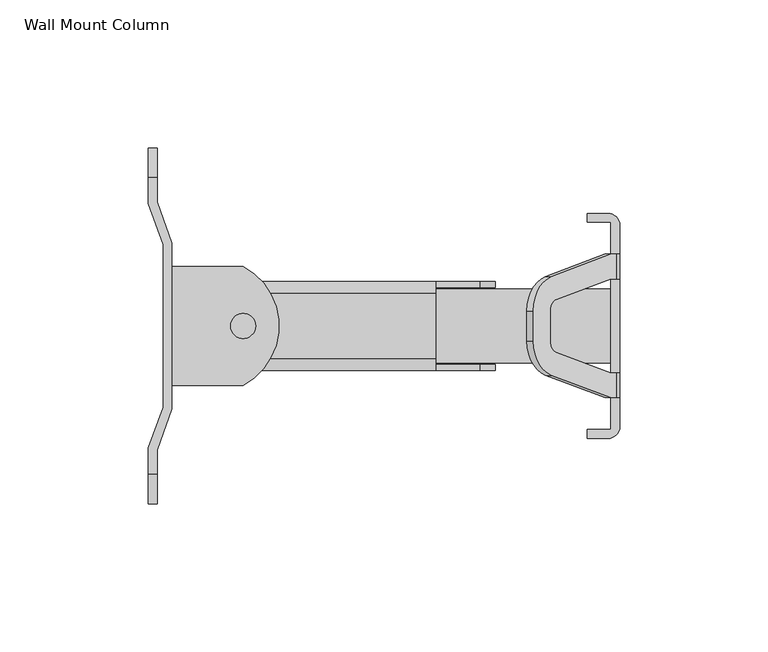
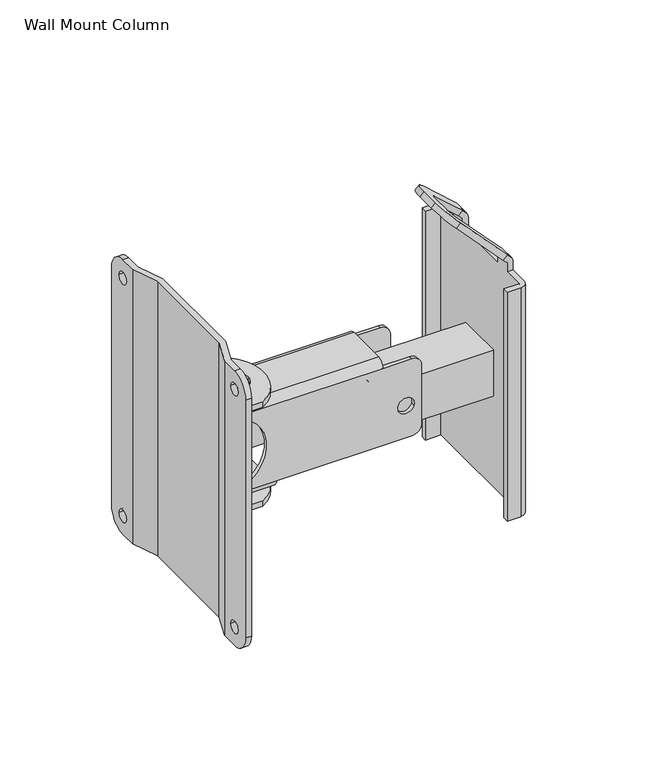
"""IFC4 building model written with IfcOpenShell, lengths in millimetres: proxy geometry, d&b xC-Series Wall Mount Column : Wall Mount Column."""

from ifc_helpers import new_model, si_unit, point, frame, frame_2d, origin, place, context, project, spatial, polyline, circle_curve, trimmed, segment, composite_curve, outline, extrude, source, transform, mapped, element, save
from ifc_brep_helpers import plane_surface, cylinder_surface, revolved_surface, advanced_brep


def wall_mount_column_50282c71(model_context):
    return source(origin(), model_context, "Body", "SolidModel", [
        advanced_brep(
        [(3.0, 13.0, -17.5), (8.0, 13.0, -12.5), (8.0, 13.0, 19.5), (3.0, 13.0, 24.5), (-12.0, 13.0, 24.5), (-12.0, 13.0, 22.5), (-85.755002, 13.0, 22.5), (-92.0, 13.0, -16.5), (-92.0, 13.0, -19.5), (-67.0, 13.0, -19.5), (-67.0, 13.0, -17.5), (4.0912703, 13.0, -1.0962526), (-4.0912703, 13.0, 1.0962526), (-92.0, 15.0, -17.5), (-92.0, 15.0, -16.5), (-92.0, 15.0, 23.5), (-92.0, 15.0, 24.5), (-12.0, 15.0, 24.5), (3.0, 15.0, 24.5), (8.0, 15.0, 19.5), (8.0, 15.0, -12.5), (3.0, 15.0, -17.5), (-67.0, 15.0, -17.5), (4.0912703, 15.0, -1.0962526), (-4.0912703, 15.0, 1.0962526), (-92.0, 13.0, 23.5), (-92.0, -13.0, -16.5), (-85.755002, -13.0, 22.5), (-12.0, -13.0, 22.5), (-12.0, -13.0, 24.5), (3.0, -13.0, 24.5), (8.0, -13.0, 19.5), (8.0, -13.0, -12.5), (3.0, -13.0, -17.5), (-67.0, -13.0, -17.5), (-67.0, -13.0, -19.5), (-92.0, -13.0, -19.5), (4.0912703, -13.0, -1.0962526), (-4.0912703, -13.0, 1.0962526), (3.0, -15.0, -17.5), (8.0, -15.0, -12.5), (8.0, -15.0, 19.5), (3.0, -15.0, 24.5), (-12.0, -15.0, 24.5), (-92.0, -15.0, 24.5), (-92.0, -15.0, 23.5), (-92.0, -15.0, -16.5), (-92.0, -15.0, -17.5), (-67.0, -15.0, -17.5), (4.0912703, -15.0, -1.0962526), (-4.0912703, -15.0, 1.0962526), (-92.0, -13.0, 23.5), (-92.0, 11.0, -21.5), (-92.0, -11.0, -21.5), (-92.0, 11.0, 28.5), (-92.0, 13.0, 22.5), (-92.0, -13.0, 22.5), (-92.0, -11.0, 28.5), (-12.0, 11.0, 28.5), (-12.0, -11.0, 28.5), (-67.0, -11.0, -21.5), (-67.0, 11.0, -21.5)],
        [
            (0, 1, circle_curve(frame((3.0, 13.0, -12.5), z_axis=(0.0, -1.0, 0.0), x_axis=(-0.9659258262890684, 0.0, 0.25881904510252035)), 5.0)),
            (1, 2),
            (2, 3, circle_curve(frame((3.0, 13.0, 19.5), z_axis=(0.0, -1.0, 0.0), x_axis=(-0.9659258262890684, 0.0, 0.25881904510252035)), 5.0)),
            (3, 4),
            (4, 5),
            (5, 6),
            (6, 7, circle_curve(frame((-92.0, 13.0, 3.5), z_axis=(0.0, 1.0, 0.0), x_axis=(-0.9659258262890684, 0.0, 0.25881904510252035)), 20.0)),
            (7, 8),
            (8, 9),
            (9, 10),
            (10, 0),
            (11, 12, circle_curve(frame((0.0, 13.0, 0.0), z_axis=(0.0, 1.0, 0.0), x_axis=(-0.9659258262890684, 0.0, 0.25881904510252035)), 4.2355947)),
            (12, 11, circle_curve(frame((0.0, 13.0, 0.0), z_axis=(0.0, 1.0, 0.0), x_axis=(-0.9659258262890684, 0.0, 0.25881904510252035)), 4.2355947)),
            (13, 14),
            (14, 15, circle_curve(frame((-92.0, 15.0, 3.5), z_axis=(0.0, -1.0, 0.0), x_axis=(-0.9659258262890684, 0.0, 0.25881904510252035)), 20.0)),
            (15, 16),
            (16, 17),
            (17, 18),
            (18, 19, circle_curve(frame((3.0, 15.0, 19.5), z_axis=(0.0, 1.0, 0.0), x_axis=(-0.9659258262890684, 0.0, 0.25881904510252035)), 5.0)),
            (19, 20),
            (20, 21, circle_curve(frame((3.0, 15.0, -12.5), z_axis=(0.0, 1.0, 0.0), x_axis=(-0.9659258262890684, 0.0, 0.25881904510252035)), 5.0)),
            (21, 22),
            (22, 13),
            (23, 24, circle_curve(frame((0.0, 15.0, 0.0), z_axis=(0.0, -1.0, 0.0), x_axis=(-0.9659258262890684, 0.0, 0.25881904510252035)), 4.2355947)),
            (24, 23, circle_curve(frame((0.0, 15.0, 0.0), z_axis=(0.0, -1.0, 0.0), x_axis=(-0.9659258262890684, 0.0, 0.25881904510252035)), 4.2355947)),
            (21, 0),
            (10, 22),
            (20, 1),
            (19, 2),
            (18, 3),
            (17, 4),
            (14, 7),
            (6, 25, circle_curve(frame((-92.0, 13.0, 3.5), z_axis=(0.0, -1.0, 0.0), x_axis=(-0.9659258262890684, 0.0, 0.25881904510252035)), 20.0)),
            (25, 15),
            (26, 27, circle_curve(frame((-92.0, -13.0, 3.5), z_axis=(0.0, -1.0, 0.0), x_axis=(-0.9659258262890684, 0.0, 0.25881904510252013)), 20.0)),
            (27, 28),
            (28, 29),
            (29, 30),
            (30, 31, circle_curve(frame((3.0, -13.0, 19.5), z_axis=(0.0, 1.0, 0.0), x_axis=(-0.9659258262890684, 0.0, 0.25881904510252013)), 5.0)),
            (31, 32),
            (32, 33, circle_curve(frame((3.0, -13.0, -12.5), z_axis=(0.0, 1.0, 0.0), x_axis=(-0.9659258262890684, 0.0, 0.25881904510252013)), 5.0)),
            (33, 34),
            (34, 35),
            (35, 36),
            (36, 26),
            (37, 38, circle_curve(frame((0.0, -13.0, 0.0), z_axis=(0.0, -1.0, 0.0), x_axis=(-0.9659258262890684, 0.0, 0.25881904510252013)), 4.2355947)),
            (38, 37, circle_curve(frame((0.0, -13.0, 0.0), z_axis=(0.0, -1.0, 0.0), x_axis=(-0.9659258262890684, 0.0, 0.25881904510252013)), 4.2355947)),
            (39, 40, circle_curve(frame((3.0, -15.0, -12.5), z_axis=(0.0, -1.0, 0.0), x_axis=(-0.9659258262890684, 0.0, 0.25881904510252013)), 5.0)),
            (40, 41),
            (41, 42, circle_curve(frame((3.0, -15.0, 19.5), z_axis=(0.0, -1.0, 0.0), x_axis=(-0.9659258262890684, 0.0, 0.25881904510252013)), 5.0)),
            (42, 43),
            (43, 44),
            (44, 45),
            (45, 46, circle_curve(frame((-92.0, -15.0, 3.5), z_axis=(0.0, 1.0, 0.0), x_axis=(-0.9659258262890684, 0.0, 0.25881904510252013)), 20.0)),
            (46, 47),
            (47, 48),
            (48, 39),
            (49, 50, circle_curve(frame((0.0, -15.0, 0.0), z_axis=(0.0, 1.0, 0.0), x_axis=(-0.9659258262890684, 0.0, 0.25881904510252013)), 4.2355947)),
            (50, 49, circle_curve(frame((0.0, -15.0, 0.0), z_axis=(0.0, 1.0, 0.0), x_axis=(-0.9659258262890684, 0.0, 0.25881904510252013)), 4.2355947)),
            (33, 39),
            (48, 34),
            (32, 40),
            (31, 41),
            (30, 42),
            (29, 43),
            (45, 51),
            (51, 27, circle_curve(frame((-92.0, -13.0, 3.5), z_axis=(0.0, 1.0, 0.0), x_axis=(-0.9659258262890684, 0.0, 0.25881904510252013)), 20.0)),
            (26, 46),
            (36, 8),
            (13, 52, circle_curve(frame((-92.0, 11.0, -17.5), z_axis=(-1.0, 0.0, 0.0), x_axis=(0.0, -1.0, 0.0)), 4.0)),
            (52, 53),
            (53, 47, circle_curve(frame((-92.0, -11.0, -17.5), z_axis=(-1.0, 0.0, 0.0), x_axis=(0.0, -1.0, 0.0)), 4.0)),
            (11, 23),
            (24, 12),
            (37, 49),
            (50, 38),
            (54, 16, circle_curve(frame((-92.0, 11.0, 24.5), z_axis=(-1.0, 0.0, 0.0), x_axis=(0.0, -1.0, 0.0)), 4.0)),
            (25, 55),
            (55, 56),
            (56, 51),
            (44, 57, circle_curve(frame((-92.0, -11.0, 24.5), z_axis=(-1.0, 0.0, 0.0), x_axis=(0.0, -1.0, 0.0)), 4.0)),
            (57, 54),
            (58, 59),
            (59, 43, circle_curve(frame((-12.0, -11.0, 24.5), z_axis=(1.0, 0.0, 0.0), x_axis=(0.0, -1.0, 0.0)), 4.0)),
            (28, 5),
            (17, 58, circle_curve(frame((-12.0, 11.0, 24.5), z_axis=(1.0, 0.0, 0.0), x_axis=(0.0, -1.0, 0.0)), 4.0)),
            (57, 59),
            (58, 54),
            (56, 27),
            (55, 6),
            (48, 60, circle_curve(frame((-67.0, -11.0, -17.5), z_axis=(1.0, 0.0, 0.0), x_axis=(0.0, -1.0, 0.0)), 4.0)),
            (60, 61),
            (61, 22, circle_curve(frame((-67.0, 11.0, -17.5), z_axis=(1.0, 0.0, 0.0), x_axis=(0.0, -1.0, 0.0)), 4.0)),
            (9, 35),
            (53, 60),
            (52, 61),
        ],
        [
            plane_surface(frame((3.0, 13.0, -17.5), z_axis=(0.0, -1.0, 0.0), x_axis=(1.0, 0.0, 0.0))),
            plane_surface(frame((3.0, 15.0, -17.5), z_axis=(0.0, 1.0, 0.0), x_axis=(-1.0, 0.0, 0.0))),
            plane_surface(frame((-92.0, 13.0, -17.5), z_axis=(0.0, 0.0, -1.0), x_axis=(0.0, 1.0, 0.0))),
            cylinder_surface(frame((3.0, 15.0, -12.5), z_axis=(0.0, -1.0, 0.0), x_axis=(-0.9659258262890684, 0.0, 0.25881904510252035)), 5.0),
            plane_surface(frame((8.0, 13.0, -12.5), z_axis=(1.0, 0.0, 0.0), x_axis=(0.0, 1.0, 0.0))),
            cylinder_surface(frame((3.0, 15.0, 19.5), z_axis=(0.0, -1.0, 0.0), x_axis=(-0.9659258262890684, 0.0, 0.25881904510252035)), 5.0),
            plane_surface(frame((3.0, 13.0, 24.5), z_axis=(0.0, 0.0, 1.0), x_axis=(0.0, 1.0, 0.0))),
            revolved_surface(polyline([(-111.31851652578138, 15.0, 8.676380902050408), (-111.31851652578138, 13.0, 8.676380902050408)]), (-92.0, 15.0, 3.5), (0.0, 1.0, 0.0)),
            plane_surface(frame((-92.0, -13.0, -17.5), z_axis=(0.0, 1.0, 0.0), x_axis=(0.0, 0.0, 1.0))),
            plane_surface(frame((-92.0, -15.0, -17.5), z_axis=(0.0, -1.0, 0.0), x_axis=(0.0, 0.0, -1.0))),
            plane_surface(frame((3.0, -13.0, -17.5), z_axis=(0.0, 0.0, -1.0), x_axis=(0.0, -1.0, 0.0))),
            cylinder_surface(frame((3.0, -15.0, -12.5), z_axis=(0.0, 1.0, 0.0), x_axis=(-0.9659258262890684, 0.0, 0.25881904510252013)), 5.0),
            plane_surface(frame((8.0, -13.0, 19.5), z_axis=(1.0, 0.0, 0.0), x_axis=(0.0, -1.0, 0.0))),
            cylinder_surface(frame((3.0, -15.0, 19.5), z_axis=(0.0, 1.0, 0.0), x_axis=(-0.9659258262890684, 0.0, 0.25881904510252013)), 5.0),
            plane_surface(frame((-92.0, -13.0, 24.5), z_axis=(0.0, 0.0, 1.0), x_axis=(0.0, -1.0, 0.0))),
            revolved_surface(polyline([(-111.31851652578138, -15.0, 8.676380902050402), (-111.31851652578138, -13.0, 8.676380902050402)]), (-92.0, -15.0, 3.5), (0.0, -1.0, 0.0)),
            plane_surface(frame((-92.0, -13.0, -17.5), z_axis=(-1.0, 0.0, 0.0), x_axis=(0.0, -1.0, 0.0))),
            revolved_surface(polyline([(-4.0912703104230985, 15.0, 1.096252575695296), (-4.0912703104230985, 13.0, 1.096252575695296)]), (0.0, 0.0, 0.0), (0.0, 1.0, 0.0)),
            revolved_surface(polyline([(-4.0912703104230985, -15.0, 1.0962525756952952), (-4.0912703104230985, -13.0, 1.0962525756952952)]), (0.0, 0.0, 0.0), (0.0, -1.0, 0.0)),
            plane_surface(frame((-92.0, -11.0, 28.5), z_axis=(-1.0, 0.0, 0.0), x_axis=(0.0, 1.0, 0.0))),
            plane_surface(frame((-12.0, -11.0, 28.5), z_axis=(1.0, 0.0, 0.0), x_axis=(0.0, -1.0, 0.0))),
            plane_surface(frame((-12.0, 11.0, 28.5), z_axis=(0.0, 0.0, 1.0), x_axis=(-1.0, 0.0, 0.0))),
            cylinder_surface(frame((-92.0, -11.0, 24.5), z_axis=(1.0, 0.0, 0.0), x_axis=(0.0, -1.0, 0.0)), 4.0),
            plane_surface(frame((-12.0, -13.0, 24.5), z_axis=(0.0, -1.0, 0.0), x_axis=(-1.0, 0.0, 0.0))),
            plane_surface(frame((-12.0, -13.0, 22.5), z_axis=(0.0, 0.0, -1.0), x_axis=(-1.0, 0.0, 0.0))),
            plane_surface(frame((-12.0, 13.0, 22.5), z_axis=(0.0, 1.0, 0.0), x_axis=(-1.0, 0.0, 0.0))),
            cylinder_surface(frame((-92.0, 11.0, 24.5), z_axis=(1.0, 0.0, 0.0), x_axis=(0.0, -1.0, 0.0)), 4.0),
            plane_surface(frame((-67.0, -13.0, -17.5), z_axis=(1.0, 0.0, 0.0), x_axis=(0.0, 0.0, 1.0))),
            cylinder_surface(frame((-92.0, -11.0, -17.5), z_axis=(1.0, 0.0, 0.0), x_axis=(0.0, -1.0, 0.0)), 4.0),
            plane_surface(frame((-67.0, -11.0, -21.5), z_axis=(0.0, 0.0, -1.0), x_axis=(-1.0, 0.0, 0.0))),
            cylinder_surface(frame((-92.0, 11.0, -17.5), z_axis=(1.0, 0.0, 0.0), x_axis=(0.0, -1.0, 0.0)), 4.0),
            plane_surface(frame((-67.0, 13.0, -19.5), z_axis=(0.0, 0.0, 1.0), x_axis=(-1.0, 0.0, 0.0))),
        ],
        [
            (0, [[1, 2, 3, 4, 5, 6, 7, 8, 9, 10, 11], [12, 13]]),
            (1, [[14, 15, 16, 17, 18, 19, 20, 21, 22, 23], [24, 25]]),
            (2, [[26, -11, 27, -22]]),
            (3, [[-1, -26, -21, 28]]),
            (4, [[-2, -28, -20, 29]]),
            (5, [[-3, -29, -19, 30]]),
            (6, [[-30, -18, 31, -4]]),
            (7, [[-15, 32, -7, 33, 34]]),
            (8, [[35, 36, 37, 38, 39, 40, 41, 42, 43, 44, 45], [46, 47]]),
            (9, [[48, 49, 50, 51, 52, 53, 54, 55, 56, 57], [58, 59]]),
            (10, [[60, -57, 61, -42]]),
            (11, [[-41, 62, -48, -60]]),
            (12, [[-40, 63, -49, -62]]),
            (13, [[-39, 64, -50, -63]]),
            (14, [[-64, -38, 65, -51]]),
            (15, [[-54, 66, 67, -35, 68]]),
            (16, [[-45, 69, -8, -32, -14, 70, 71, 72, -55, -68]]),
            (17, [[-12, 73, -25, 74]]),
            (17, [[-13, -74, -24, -73]]),
            (18, [[-46, 75, -59, 76]]),
            (18, [[-47, -76, -58, -75]]),
            (19, [[77, -16, -34, 78, 79, 80, -66, -53, 81, 82]]),
            (20, [[83, 84, -65, -37, 85, -5, -31, 86]]),
            (21, [[-82, 87, -83, 88]]),
            (22, [[-81, -52, -84, -87]]),
            (23, [[-80, 89, -67]]),
            (24, [[-79, 90, -6, -85, -36, -89]]),
            (25, [[-78, -33, -90]]),
            (26, [[-77, -88, -86, -17]]),
            (27, [[-43, -61, 91, 92, 93, -27, -10, 94]]),
            (28, [[-91, -56, -72, 95]]),
            (29, [[-92, -95, -71, 96]]),
            (30, [[-93, -96, -70, -23]]),
            (31, [[-94, -9, -69, -44]]),
        ],
    ),
        extrude(outline(composite_curve([segment(polyline([(-101.0, 20.0), (-77.0, 20.0)]), True, "CONTINUOUS"), segment(trimmed(circle_curve(frame_2d((-87.4956641, 0.0)), 22.5866989), [point((-77.0, 20.0))], [point((-77.0, -20.0))], False, "CARTESIAN"), True, "CONTINUOUS"), segment(polyline([(-77.0, -20.0), (-101.0, -20.0), (-101.0, 20.0)]), True, "CONTINUOUS")], self_intersect=False), holes=[composite_curve([segment(trimmed(circle_curve(frame_2d((-77.0, 0.0)), 4.2033528), [point((-72.7966472, 0.0))], [point((-81.2033528, 0.0))], True, "CARTESIAN"), True, "CONTINUOUS"), segment(trimmed(circle_curve(frame_2d((-77.0, 0.0)), 4.2033528), [point((-81.2033528, 0.0))], [point((-72.7966472, 0.0))], True, "CARTESIAN"), True, "CONTINUOUS")], self_intersect=False)]), frame((0.0, 0.0, -25.0), z_axis=(0.0, 0.0, 1.0), x_axis=(1.0, 0.0, 0.0)), (0.0, 0.0, 1.0), 3.0),
        advanced_brep(
        [(-104.0, -27.5, 78.5), (-109.0, -41.2373871, 78.5), (-109.0, -50.0, 78.5), (-106.0, -50.0, 78.5), (-106.0, -41.766368, 78.5), (-101.0, -28.0289809, 78.5), (-101.0, 28.0289809, 78.5), (-106.0, 41.766368, 78.5), (-106.0, 50.0, 78.5), (-109.0, 50.0, 78.5), (-109.0, 41.2373871, 78.5), (-104.0, 27.5, 78.5), (-104.0, -27.5, -71.5), (-104.0, 27.5, -71.5), (-109.0, 41.2373871, -71.5), (-109.0, 50.0, -71.5), (-106.0, 50.0, -71.5), (-106.0, 41.766368, -71.5), (-101.0, 28.0289809, -71.5), (-101.0, -28.0289809, -71.5), (-106.0, -41.766368, -71.5), (-106.0, -50.0, -71.5), (-109.0, -50.0, -71.5), (-109.0, -41.2373871, -71.5), (-109.0, -60.0, -61.5), (-109.0, -60.0, 68.5), (-109.0, -46.75, 68.5), (-109.0, -53.25, 68.5), (-109.0, -46.75, -61.5), (-109.0, -53.25, -61.5), (-106.0, -60.0, -61.5), (-106.0, -60.0, 68.5), (-106.0, -53.25, 68.5), (-106.0, -46.75, 68.5), (-106.0, -53.25, -61.5), (-106.0, -46.75, -61.5), (-106.0, 60.0, -61.5), (-106.0, 60.0, 68.5), (-106.0, 46.75, 68.5), (-106.0, 53.25, 68.5), (-106.0, 46.75, -61.5), (-106.0, 53.25, -61.5), (-109.0, 60.0, -61.5), (-109.0, 60.0, 68.5), (-109.0, 53.25, 68.5), (-109.0, 46.75, 68.5), (-109.0, 53.25, -61.5), (-109.0, 46.75, -61.5)],
        [
            (0, 1),
            (1, 2),
            (2, 3),
            (3, 4),
            (4, 5),
            (5, 6),
            (6, 7),
            (7, 8),
            (8, 9),
            (9, 10),
            (10, 11),
            (11, 0),
            (12, 13),
            (13, 14),
            (14, 15),
            (15, 16),
            (16, 17),
            (17, 18),
            (18, 19),
            (19, 20),
            (20, 21),
            (21, 22),
            (22, 23),
            (23, 12),
            (0, 12),
            (23, 1),
            (22, 24, circle_curve(frame((-109.0, -50.0, -61.5), z_axis=(-1.0, 0.0, 0.0), x_axis=(0.0, 1.0, 0.0)), 10.0)),
            (24, 25),
            (25, 2, circle_curve(frame((-109.0, -50.0, 68.5), z_axis=(-1.0, 0.0, 0.0), x_axis=(0.0, 1.0, 0.0)), 10.0)),
            (26, 27, circle_curve(frame((-109.0, -50.0, 68.5), z_axis=(1.0, 0.0, 0.0), x_axis=(0.0, 1.0, 0.0)), 3.25)),
            (27, 26, circle_curve(frame((-109.0, -50.0, 68.5), z_axis=(1.0, 0.0, 0.0), x_axis=(0.0, 1.0, 0.0)), 3.25)),
            (28, 29, circle_curve(frame((-109.0, -50.0, -61.5), z_axis=(1.0, 0.0, 0.0), x_axis=(0.0, 1.0, 0.0)), 3.25)),
            (29, 28, circle_curve(frame((-109.0, -50.0, -61.5), z_axis=(1.0, 0.0, 0.0), x_axis=(0.0, 1.0, 0.0)), 3.25)),
            (24, 30),
            (30, 31),
            (31, 25),
            (20, 4),
            (3, 31, circle_curve(frame((-106.0, -50.0, 68.5), z_axis=(1.0, 0.0, 0.0), x_axis=(0.0, 1.0, 0.0)), 10.0)),
            (30, 21, circle_curve(frame((-106.0, -50.0, -61.5), z_axis=(1.0, 0.0, 0.0), x_axis=(0.0, 1.0, 0.0)), 10.0)),
            (32, 33, circle_curve(frame((-106.0, -50.0, 68.5), z_axis=(-1.0, 0.0, 0.0), x_axis=(0.0, 1.0, 0.0)), 3.25)),
            (33, 32, circle_curve(frame((-106.0, -50.0, 68.5), z_axis=(-1.0, 0.0, 0.0), x_axis=(0.0, 1.0, 0.0)), 3.25)),
            (34, 35, circle_curve(frame((-106.0, -50.0, -61.5), z_axis=(-1.0, 0.0, 0.0), x_axis=(0.0, 1.0, 0.0)), 3.25)),
            (35, 34, circle_curve(frame((-106.0, -50.0, -61.5), z_axis=(-1.0, 0.0, 0.0), x_axis=(0.0, 1.0, 0.0)), 3.25)),
            (19, 5),
            (18, 6),
            (17, 7),
            (16, 36, circle_curve(frame((-106.0, 50.0, -61.5), z_axis=(1.0, 0.0, 0.0), x_axis=(0.0, 1.0, 0.0)), 10.0)),
            (36, 37),
            (37, 8, circle_curve(frame((-106.0, 50.0, 68.5), z_axis=(1.0, 0.0, 0.0), x_axis=(0.0, 1.0, 0.0)), 10.0)),
            (38, 39, circle_curve(frame((-106.0, 50.0, 68.5), z_axis=(-1.0, 0.0, 0.0), x_axis=(0.0, 1.0, 0.0)), 3.25)),
            (39, 38, circle_curve(frame((-106.0, 50.0, 68.5), z_axis=(-1.0, 0.0, 0.0), x_axis=(0.0, 1.0, 0.0)), 3.25)),
            (40, 41, circle_curve(frame((-106.0, 50.0, -61.5), z_axis=(-1.0, 0.0, 0.0), x_axis=(0.0, 1.0, 0.0)), 3.25)),
            (41, 40, circle_curve(frame((-106.0, 50.0, -61.5), z_axis=(-1.0, 0.0, 0.0), x_axis=(0.0, 1.0, 0.0)), 3.25)),
            (36, 42),
            (42, 43),
            (43, 37),
            (14, 10),
            (9, 43, circle_curve(frame((-109.0, 50.0, 68.5), z_axis=(-1.0, 0.0, 0.0), x_axis=(0.0, 1.0, 0.0)), 10.0)),
            (42, 15, circle_curve(frame((-109.0, 50.0, -61.5), z_axis=(-1.0, 0.0, 0.0), x_axis=(0.0, 1.0, 0.0)), 10.0)),
            (44, 45, circle_curve(frame((-109.0, 50.0, 68.5), z_axis=(1.0, 0.0, 0.0), x_axis=(0.0, 1.0, 0.0)), 3.25)),
            (45, 44, circle_curve(frame((-109.0, 50.0, 68.5), z_axis=(1.0, 0.0, 0.0), x_axis=(0.0, 1.0, 0.0)), 3.25)),
            (46, 47, circle_curve(frame((-109.0, 50.0, -61.5), z_axis=(1.0, 0.0, 0.0), x_axis=(0.0, 1.0, 0.0)), 3.25)),
            (47, 46, circle_curve(frame((-109.0, 50.0, -61.5), z_axis=(1.0, 0.0, 0.0), x_axis=(0.0, 1.0, 0.0)), 3.25)),
            (13, 11),
            (32, 27),
            (26, 33),
            (38, 45),
            (44, 39),
            (34, 29),
            (28, 35),
            (40, 47),
            (46, 41),
        ],
        [
            plane_surface(frame((-104.0, -27.5, 78.5), z_axis=(0.0, 0.0, 1.0000000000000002), x_axis=(-0.3420201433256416, -0.9396926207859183, 0.0))),
            plane_surface(frame((-104.0, -27.5, -71.5), z_axis=(0.0, 0.0, -1.0000000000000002), x_axis=(0.3420201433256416, 0.9396926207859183, 0.0))),
            plane_surface(frame((-104.0, -27.5, 78.5), z_axis=(-0.9396926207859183, 0.3420201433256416, 0.0), x_axis=(0.0, 0.0, -1.0))),
            plane_surface(frame((-109.0, -41.2373871, 78.5), z_axis=(-1.0, 0.0, 0.0), x_axis=(0.0, 0.0, -1.0))),
            plane_surface(frame((-109.0, -60.0, 78.5), z_axis=(0.0, -1.0, 0.0), x_axis=(0.0, 0.0, -1.0))),
            plane_surface(frame((-106.0, -60.0, 78.5), z_axis=(1.0, 0.0, 0.0), x_axis=(0.0, 0.0, -1.0))),
            plane_surface(frame((-106.0, -41.766368, 78.5), z_axis=(0.9396926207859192, -0.34202014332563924, 0.0), x_axis=(0.0, 0.0, -1.0))),
            plane_surface(frame((-101.0, -28.0289809, 78.5), z_axis=(1.0, 0.0, 0.0), x_axis=(0.0, 0.0, -1.0))),
            plane_surface(frame((-101.0, 28.0289809, 78.5), z_axis=(0.9396926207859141, 0.3420201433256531, 0.0), x_axis=(0.0, 0.0, -1.0))),
            plane_surface(frame((-106.0, 41.766368, 78.5), z_axis=(1.0, 0.0, 0.0), x_axis=(0.0, 0.0, -1.0))),
            plane_surface(frame((-106.0, 60.0, 78.5), z_axis=(0.0, 1.0, 0.0), x_axis=(0.0, 0.0, -1.0))),
            plane_surface(frame((-109.0, 60.0, 78.5), z_axis=(-1.0, 0.0, 0.0), x_axis=(0.0, 0.0, -1.0))),
            plane_surface(frame((-109.0, 41.2373871, 78.5), z_axis=(-0.939692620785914, -0.3420201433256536, 0.0), x_axis=(0.0, 0.0, -1.0))),
            plane_surface(frame((-104.0, 27.5, 78.5), z_axis=(-1.0, 0.0, 0.0), x_axis=(0.0, 0.0, -1.0))),
            cylinder_surface(frame((-91.0, -50.0, 68.5), z_axis=(1.0, 0.0, 0.0), x_axis=(0.0, 1.0, 0.0)), 10.0),
            cylinder_surface(frame((-106.0, 50.0, 68.5), z_axis=(1.0, 0.0, 0.0), x_axis=(0.0, 1.0, 0.0)), 10.0),
            cylinder_surface(frame((-106.0, -50.0, -61.5), z_axis=(1.0, 0.0, 0.0), x_axis=(0.0, 1.0, 0.0)), 10.0),
            cylinder_surface(frame((-106.0, 50.0, -61.5), z_axis=(1.0, 0.0, 0.0), x_axis=(0.0, 1.0, 0.0)), 10.0),
            revolved_surface(polyline([(-109.0, -46.75, 68.5), (-106.0, -46.75, 68.5)]), (-106.0, -50.0, 68.5), (-1.0, 0.0, 0.0)),
            revolved_surface(polyline([(-109.0, 53.25, 68.5), (-106.0, 53.25, 68.5)]), (-106.0, 50.0, 68.5), (-1.0, 0.0, 0.0)),
            revolved_surface(polyline([(-109.0, -46.75, -61.5), (-106.0, -46.75, -61.5)]), (-106.0, -50.0, -61.5), (-1.0, 0.0, 0.0)),
            revolved_surface(polyline([(-109.0, 53.25, -61.5), (-106.0, 53.25, -61.5)]), (-106.0, 50.0, -61.5), (-1.0, 0.0, 0.0)),
        ],
        [
            (0, [[1, 2, 3, 4, 5, 6, 7, 8, 9, 10, 11, 12]]),
            (1, [[13, 14, 15, 16, 17, 18, 19, 20, 21, 22, 23, 24]]),
            (2, [[-1, 25, -24, 26]]),
            (3, [[-26, -23, 27, 28, 29, -2], [30, 31], [32, 33]]),
            (4, [[-28, 34, 35, 36]]),
            (5, [[37, -4, 38, -35, 39, -21], [40, 41], [42, 43]]),
            (6, [[-5, -37, -20, 44]]),
            (7, [[-6, -44, -19, 45]]),
            (8, [[-7, -45, -18, 46]]),
            (9, [[-46, -17, 47, 48, 49, -8], [50, 51], [52, 53]]),
            (10, [[-48, 54, 55, 56]]),
            (11, [[57, -10, 58, -55, 59, -15], [60, 61], [62, 63]]),
            (12, [[-11, -57, -14, 64]]),
            (13, [[-12, -64, -13, -25]]),
            (14, [[-3, -29, -36, -38]]),
            (15, [[-9, -49, -56, -58]]),
            (16, [[-22, -39, -34, -27]]),
            (17, [[-16, -59, -54, -47]]),
            (18, [[65, -30, 66, -40]]),
            (18, [[-65, -41, -66, -31]]),
            (19, [[67, -60, 68, -50]]),
            (19, [[-67, -51, -68, -61]]),
            (20, [[69, -32, 70, -42]]),
            (20, [[-69, -43, -70, -33]]),
            (21, [[71, -62, 72, -52]]),
            (21, [[-71, -53, -72, -63]]),
        ],
    ),
        extrude(outline(composite_curve([segment(polyline([(-101.0, 20.0), (-77.0, 20.0)]), True, "CONTINUOUS"), segment(trimmed(circle_curve(frame_2d((-87.4956641, 0.0)), 22.5866989), [point((-77.0, 20.0))], [point((-77.0, -20.0))], False, "CARTESIAN"), True, "CONTINUOUS"), segment(polyline([(-77.0, -20.0), (-101.0, -20.0), (-101.0, 20.0)]), True, "CONTINUOUS")], self_intersect=False), holes=[composite_curve([segment(trimmed(circle_curve(frame_2d((-77.0, 0.0)), 4.2033528), [point((-72.7966472, 0.0))], [point((-81.2033528, 0.0))], True, "CARTESIAN"), True, "CONTINUOUS"), segment(trimmed(circle_curve(frame_2d((-77.0, 0.0)), 4.2033528), [point((-81.2033528, 0.0))], [point((-72.7966472, 0.0))], True, "CARTESIAN"), True, "CONTINUOUS")], self_intersect=False)]), frame((0.0, 0.0, 29.0), z_axis=(0.0, 0.0, 1.0), x_axis=(1.0, 0.0, 0.0)), (0.0, 0.0, 1.0), 3.0),
        advanced_brep(
        [(44.8686292, -24.1923439, 69.3813708), (25.0048577, -16.6652184, 89.2451423), (18.7157288, -5.0741084, 95.5342712), (18.7157288, 5.0741084, 95.5342712), (25.0048577, 16.6652184, 89.2451423), (44.8686292, 24.1923439, 69.3813708), (47.0, 24.1923439, 67.25), (47.0, 15.9101345, 67.25), (44.8686292, 15.9101345, 69.3813708), (26.4689593, 8.9378118, 87.7810407), (24.372583, 5.0741084, 89.877417), (24.372583, -5.0741084, 89.877417), (26.4689593, -8.9378118, 87.7810407), (44.8686292, -15.9101345, 69.3813708), (47.0, -15.9101345, 67.25), (47.0, -24.1923439, 67.25), (46.9899495, -15.9101345, 71.5026912), (28.5902797, -8.9378118, 89.902361), (26.4939033, -5.0741084, 91.9987373), (26.4939033, 5.0741084, 91.9987373), (28.5902797, 8.9378118, 89.902361), (46.9899495, 15.9101345, 71.5026912), (48.8284271, 15.9101345, 69.6642136), (48.8284271, 24.1923439, 69.6642136), (46.9899495, 24.1923439, 71.5026912), (27.126178, 16.6652184, 91.3664626), (20.8370491, 5.0741084, 97.6555916), (20.8370491, -5.0741084, 97.6555916), (27.126178, -16.6652184, 91.3664626), (46.9899495, -24.1923439, 71.5026912), (48.8284271, -24.1923439, 69.6642136), (48.8284271, -15.9101345, 69.6642136), (50.0, 15.9101345, 66.8357864), (47.0, 15.9101345, 62.25), (50.0, 15.9101345, 62.25), (50.0, 24.1923439, 66.8357864), (50.0, 24.1923439, 62.25), (47.0, 24.1923439, 62.25), (50.0, -15.9101345, 62.25), (50.0, -15.9101345, 66.8357864), (50.0, -24.1923439, 66.8357864), (50.0, -24.1923439, 62.25), (50.0, -34.0, 62.25), (50.0, -34.0, -62.75), (50.0, 34.0, -62.75), (50.0, 34.0, 62.25), (47.0, 35.0, 62.25), (47.0, 35.0, -62.75), (47.0, -35.0, -62.75), (47.0, -35.0, 62.25), (47.0, -24.1923439, 62.25), (47.0, -15.9101345, 62.25), (39.0, 38.0, 62.25), (39.0, 35.0, 62.25), (46.0, 38.0, 62.25), (39.0, -35.0, 62.25), (39.0, -38.0, 62.25), (46.0, -38.0, 62.25), (39.0, 38.0, -62.75), (46.0, 38.0, -62.75), (46.0, -38.0, -62.75), (39.0, -38.0, -62.75), (39.0, -35.0, -62.75), (39.0, 35.0, -62.75)],
        [
            (0, 1),
            (1, 2, circle_curve(frame((27.2010101, -5.0741084, 87.0489899), z_axis=(-0.7071067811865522, 0.0, -0.707106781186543), x_axis=(-0.707106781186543, 0.0, 0.7071067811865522)), 12.0)),
            (2, 3),
            (3, 4, circle_curve(frame((27.2010101, 5.0741084, 87.0489899), z_axis=(-0.7071067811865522, 0.0, -0.707106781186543), x_axis=(-0.707106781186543, 0.0, 0.7071067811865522)), 12.0)),
            (4, 5),
            (5, 6),
            (6, 7),
            (7, 8),
            (8, 9),
            (9, 10, circle_curve(frame((27.2010101, 5.0741084, 87.0489899), z_axis=(0.7071067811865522, 0.0, 0.707106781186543), x_axis=(-0.707106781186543, 0.0, 0.7071067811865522)), 4.0)),
            (10, 11),
            (11, 12, circle_curve(frame((27.2010101, -5.0741084, 87.0489899), z_axis=(0.7071067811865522, 0.0, 0.707106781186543), x_axis=(-0.707106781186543, 0.0, 0.7071067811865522)), 4.0)),
            (12, 13),
            (13, 14),
            (14, 15),
            (15, 0),
            (16, 17),
            (17, 18, circle_curve(frame((29.3223305, -5.0741084, 89.1703102), z_axis=(-0.7071067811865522, 0.0, -0.707106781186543), x_axis=(-0.707106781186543, 0.0, 0.7071067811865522)), 4.0)),
            (18, 19),
            (19, 20, circle_curve(frame((29.3223305, 5.0741084, 89.1703102), z_axis=(-0.7071067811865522, 0.0, -0.707106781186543), x_axis=(-0.707106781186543, 0.0, 0.7071067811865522)), 4.0)),
            (20, 21),
            (21, 22),
            (22, 23),
            (23, 24),
            (24, 25),
            (25, 26, circle_curve(frame((29.3223305, 5.0741084, 89.1703102), z_axis=(0.7071067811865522, 0.0, 0.707106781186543), x_axis=(-0.707106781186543, 0.0, 0.7071067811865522)), 12.0)),
            (26, 27),
            (27, 28, circle_curve(frame((29.3223305, -5.0741084, 89.1703102), z_axis=(0.7071067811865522, 0.0, 0.707106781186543), x_axis=(-0.707106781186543, 0.0, 0.7071067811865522)), 12.0)),
            (28, 29),
            (29, 30),
            (30, 31),
            (31, 16),
            (12, 17),
            (16, 13),
            (11, 18),
            (10, 19),
            (9, 20),
            (8, 21),
            (4, 25),
            (24, 5),
            (3, 26),
            (2, 27),
            (1, 28),
            (0, 29),
            (32, 22, circle_curve(frame((46.0, 15.9101345, 66.8357864), z_axis=(0.0, -1.0, 0.0), x_axis=(1.0, 0.0, 0.0)), 4.0)),
            (7, 33),
            (33, 34),
            (34, 32),
            (35, 36),
            (36, 37),
            (37, 6),
            (23, 35, circle_curve(frame((46.0, 24.1923439, 66.8357864), z_axis=(0.0, 1.0, 0.0), x_axis=(1.0, 0.0, 0.0)), 4.0)),
            (34, 38),
            (38, 39),
            (39, 40),
            (40, 41),
            (41, 42),
            (42, 43),
            (43, 44),
            (44, 45),
            (45, 36),
            (35, 32),
            (37, 46),
            (46, 47),
            (47, 48),
            (48, 49),
            (49, 50),
            (50, 15),
            (14, 51),
            (51, 33),
            (40, 30, circle_curve(frame((46.0, -24.1923439, 66.8357864), z_axis=(0.0, -1.0, 0.0), x_axis=(1.0, 0.0, 0.0)), 4.0)),
            (50, 41),
            (38, 51),
            (31, 39, circle_curve(frame((46.0, -15.9101345, 66.8357864), z_axis=(0.0, 1.0, 0.0), x_axis=(1.0, 0.0, 0.0)), 4.0)),
            (52, 53),
            (53, 46),
            (45, 54, circle_curve(frame((46.0, 34.0, 62.25), z_axis=(0.0, 0.0, 1.0), x_axis=(1.0, 0.0, 0.0)), 4.0)),
            (54, 52),
            (49, 55),
            (55, 56),
            (56, 57),
            (57, 42, circle_curve(frame((46.0, -34.0, 62.25), z_axis=(0.0, 0.0, 1.0), x_axis=(1.0, 0.0, 0.0)), 4.0)),
            (58, 59),
            (59, 44, circle_curve(frame((46.0, 34.0, -62.75), z_axis=(0.0, 0.0, -1.0), x_axis=(1.0, 0.0, 0.0)), 4.0)),
            (43, 60, circle_curve(frame((46.0, -34.0, -62.75), z_axis=(0.0, 0.0, -1.0), x_axis=(1.0, 0.0, 0.0)), 4.0)),
            (60, 61),
            (61, 62),
            (62, 48),
            (47, 63),
            (63, 58),
            (52, 58),
            (63, 53),
            (62, 55),
            (61, 56),
            (60, 57),
            (59, 54),
        ],
        [
            plane_surface(frame((44.8686292, -25.0, 69.3813708), z_axis=(-0.7071067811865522, 0.0, -0.707106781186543), x_axis=(0.0, -1.0, 0.0))),
            plane_surface(frame((46.9899495, -25.0, 71.5026912), z_axis=(0.7071067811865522, 0.0, 0.707106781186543), x_axis=(0.0, 1.0, 0.0))),
            plane_surface(frame((46.9899495, -15.9101345, 71.5026912), z_axis=(0.18301270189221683, 0.9659258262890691, -0.183012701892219), x_axis=(-0.7071067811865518, 0.0, -0.7071067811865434))),
            revolved_surface(polyline([(24.372582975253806, -5.0741084, 89.8774170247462), (26.493903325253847, -5.0741084, 91.9987373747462)]), (27.2010101, -5.0741084, 87.0489899), (-0.7071067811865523, 0.0, -0.7071067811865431)),
            plane_surface(frame((26.4939033, -5.0741084, 91.9987373), z_axis=(0.7071067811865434, 0.0, -0.7071067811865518), x_axis=(-0.7071067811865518, 0.0, -0.7071067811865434))),
            revolved_surface(polyline([(24.372582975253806, 5.0741084, 89.8774170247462), (26.493903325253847, 5.0741084, 91.9987373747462)]), (27.2010101, 5.0741084, 87.0489899), (-0.7071067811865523, 0.0, -0.7071067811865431)),
            plane_surface(frame((28.5902797, 8.9378118, 89.902361), z_axis=(0.18301270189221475, -0.9659258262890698, -0.1830127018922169), x_axis=(-0.7071067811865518, 0.0, -0.7071067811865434))),
            plane_surface(frame((46.9899495, 24.1923439, 71.5026912), z_axis=(-0.18301270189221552, 0.9659258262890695, 0.18301270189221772), x_axis=(-0.7071067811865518, 0.0, -0.7071067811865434))),
            cylinder_surface(frame((27.2010101, 5.0741084, 87.0489899), z_axis=(0.7071067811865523, 0.0, 0.7071067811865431), x_axis=(-0.707106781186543, 0.0, 0.7071067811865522)), 12.0),
            plane_surface(frame((20.8370491, 5.0741084, 97.6555916), z_axis=(-0.7071067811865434, 0.0, 0.7071067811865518), x_axis=(-0.7071067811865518, 0.0, -0.7071067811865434))),
            cylinder_surface(frame((27.2010101, -5.0741084, 87.0489899), z_axis=(0.7071067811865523, 0.0, 0.7071067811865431), x_axis=(-0.707106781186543, 0.0, 0.7071067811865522)), 12.0),
            plane_surface(frame((27.126178, -16.6652184, 91.3664626), z_axis=(-0.1830127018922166, -0.9659258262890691, 0.1830127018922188), x_axis=(-0.7071067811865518, 0.0, -0.7071067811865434))),
            plane_surface(frame((50.0, 15.9101345, 66.8357864), z_axis=(0.0, -1.0, 0.0), x_axis=(0.0, 0.0, 1.0))),
            plane_surface(frame((50.0, 24.1923439, 66.8357864), z_axis=(0.0, 1.0, 0.0), x_axis=(0.0, 0.0, -1.0))),
            plane_surface(frame((50.0, 15.9101345, 62.25), z_axis=(1.0, 0.0, 0.0), x_axis=(0.0, 1.0, 0.0))),
            plane_surface(frame((47.0, 15.9101345, 67.25), z_axis=(-1.0, 0.0, 0.0), x_axis=(0.0, 1.0, 0.0))),
            cylinder_surface(frame((46.0, 24.1923439, 66.8357864), z_axis=(0.0, -1.0, 0.0), x_axis=(1.0, 0.0, 0.0)), 4.0),
            plane_surface(frame((50.0, -24.1923439, 66.8357864), z_axis=(0.0, -1.0, 0.0), x_axis=(0.0, 0.0, 1.0))),
            plane_surface(frame((50.0, -15.9101345, 66.8357864), z_axis=(0.0, 1.0, 0.0), x_axis=(0.0, 0.0, -1.0))),
            cylinder_surface(frame((46.0, -15.9101345, 66.8357864), z_axis=(0.0, -1.0, 0.0), x_axis=(1.0, 0.0, 0.0)), 4.0),
            plane_surface(frame((39.0, 38.0, 62.25), z_axis=(0.0, 0.0, 1.0), x_axis=(0.0, -1.0, 0.0))),
            plane_surface(frame((39.0, 38.0, -62.75), z_axis=(0.0, 0.0, -1.0), x_axis=(0.0, 1.0, 0.0))),
            plane_surface(frame((39.0, 38.0, 62.25), z_axis=(-1.0, 0.0, 0.0), x_axis=(0.0, 0.0, -1.0))),
            plane_surface(frame((39.0, 35.0, 62.25), z_axis=(0.0, -1.0, 0.0), x_axis=(0.0, 0.0, -1.0))),
            plane_surface(frame((47.0, -35.0, 62.25), z_axis=(0.0, 1.0, 0.0), x_axis=(0.0, 0.0, -1.0))),
            plane_surface(frame((39.0, -35.0, 62.25), z_axis=(-1.0, 0.0, 0.0), x_axis=(0.0, 0.0, -1.0))),
            plane_surface(frame((39.0, -38.0, 62.25), z_axis=(0.0, -1.0, 0.0), x_axis=(0.0, 0.0, -1.0))),
            cylinder_surface(frame((46.0, -34.0, -62.75), z_axis=(0.0, 0.0, 1.0), x_axis=(1.0, 0.0, 0.0)), 4.0),
            cylinder_surface(frame((46.0, 34.0, -62.75), z_axis=(0.0, 0.0, 1.0), x_axis=(1.0, 0.0, 0.0)), 4.0),
            plane_surface(frame((46.0, 38.0, 62.25), z_axis=(0.0, 1.0, 0.0), x_axis=(0.0, 0.0, -1.0))),
        ],
        [
            (0, [[1, 2, 3, 4, 5, 6, 7, 8, 9, 10, 11, 12, 13, 14, 15, 16]]),
            (1, [[17, 18, 19, 20, 21, 22, 23, 24, 25, 26, 27, 28, 29, 30, 31, 32]]),
            (2, [[-13, 33, -17, 34]]),
            (3, [[-12, 35, -18, -33]]),
            (4, [[-11, 36, -19, -35]]),
            (5, [[-10, 37, -20, -36]]),
            (6, [[-9, 38, -21, -37]]),
            (7, [[-5, 39, -25, 40]]),
            (8, [[-4, 41, -26, -39]]),
            (9, [[-3, 42, -27, -41]]),
            (10, [[-2, 43, -28, -42]]),
            (11, [[-1, 44, -29, -43]]),
            (12, [[45, -22, -38, -8, 46, 47, 48]]),
            (13, [[49, 50, 51, -6, -40, -24, 52]]),
            (14, [[-48, 53, 54, 55, 56, 57, 58, 59, 60, 61, -49, 62]]),
            (15, [[-46, -7, -51, 63, 64, 65, 66, 67, 68, -15, 69, 70]]),
            (16, [[-45, -62, -52, -23]]),
            (17, [[71, -30, -44, -16, -68, 72, -56]]),
            (18, [[-54, 73, -69, -14, -34, -32, 74]]),
            (19, [[-71, -55, -74, -31]]),
            (20, [[-53, -47, -70, -73]]),
            (20, [[75, 76, -63, -50, -61, 77, 78]]),
            (20, [[79, 80, 81, 82, -57, -72, -67]]),
            (21, [[83, 84, -59, 85, 86, 87, 88, -65, 89, 90]]),
            (22, [[-75, 91, -90, 92]]),
            (23, [[-76, -92, -89, -64]]),
            (24, [[-79, -66, -88, 93]]),
            (25, [[-80, -93, -87, 94]]),
            (26, [[-81, -94, -86, 95]]),
            (27, [[-82, -95, -85, -58]]),
            (28, [[-77, -60, -84, 96]]),
            (29, [[-78, -96, -83, -91]]),
        ],
    ),
        extrude(outline(polyline([(47.0, 12.5), (47.0, -12.5), (-40.0, -12.5), (-40.0, 12.5), (47.0, 12.5)])), frame((0.0, 0.0, -12.5), z_axis=(0.0, 0.0, 1.0), x_axis=(1.0, 0.0, 0.0)), (0.0, 0.0, 1.0), 25.0),
    ])


if __name__ == "__main__":
    model = new_model("IFC4")
    model_context = context("Model", 3, world=origin())
    ifc_project = project(units=[si_unit("LENGTHUNIT", "METRE", prefix="MILLI")], contexts=[model_context])
    site = spatial("IfcSite", under=ifc_project)
    building = spatial("IfcBuilding", under=site)
    placement = place(None, origin())
    wall_mount_column_shape = wall_mount_column_50282c71(model_context)
    element("IfcBuildingElementProxy", 1, Name="d&b xC-Series Wall Mount Column : Wall Mount Column", ObjectType="d&b xC-Series Wall Mount Column : Wall Mount Column", at=placement, inside=building, context=model_context, shape_type="MappedRepresentation", body=[
        mapped(wall_mount_column_shape, transform((0.0, 0.0, 0.0), x_axis=(1.0, 0.0, 0.0), y_axis=(0.0, 1.0, 0.0), z_axis=(0.0, 0.0, 1.0))),
    ])
    save(model, "model.ifc")
